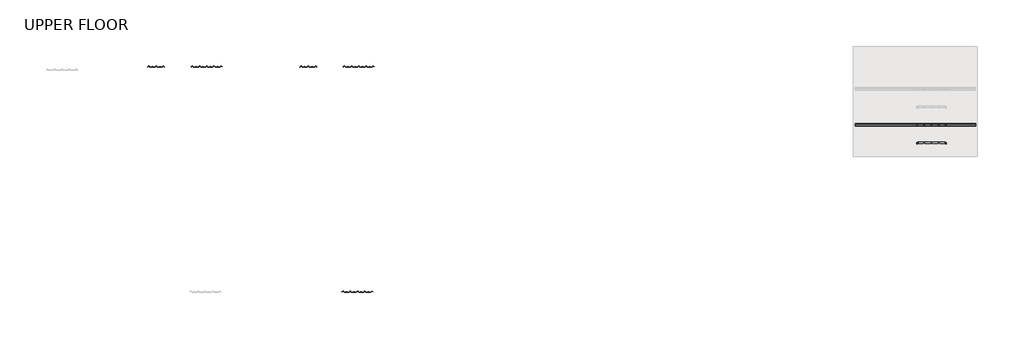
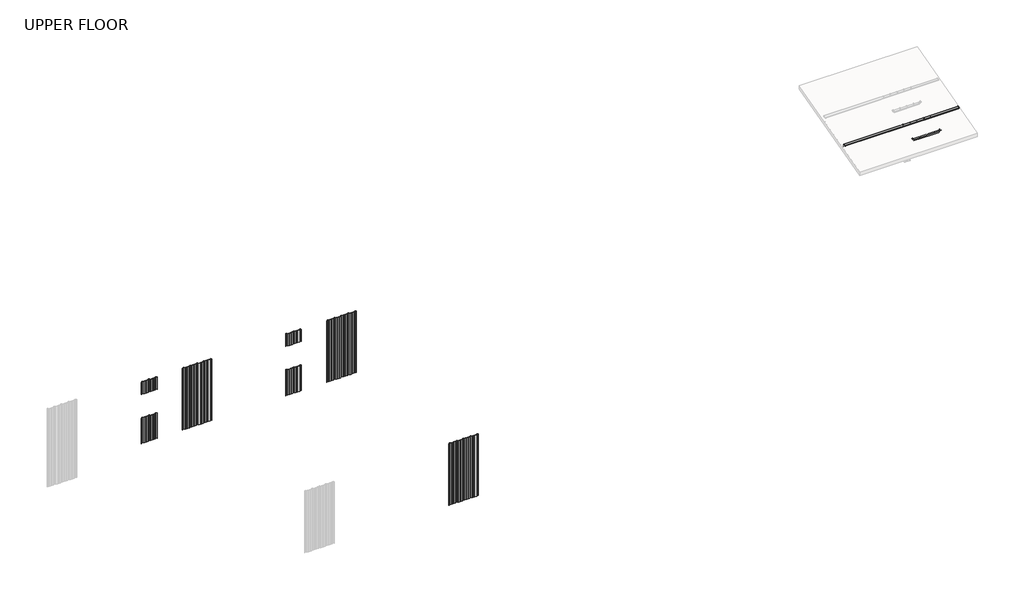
# One storey, part 7 of 8: 9 beams.
"""IFC4 building model written with IfcOpenShell, lengths in millimetres."""

from ifc_helpers import new_model, si_unit, point, frame, frame_2d, origin, place, context, project, spatial, polyline, circle_curve, trimmed, segment, composite_curve, outline, extrude, transform, mapped, element, save
from components import beam_c81321a4, beam_2c57848d, purlin_purlin_01fb94b4

model = new_model("IFC4")

# Units and contexts
model_context = context("Model", 3, world=origin())
ifc_project = project(units=[si_unit("LENGTHUNIT", "METRE", prefix="MILLI")], contexts=[model_context])

# Site, building, storey
site = spatial("IfcSite", under=ifc_project)
building = spatial("IfcBuilding", under=site)
storey = spatial("IfcBuildingStorey", under=building, Name="UPPER FLOOR", Elevation=2700.0)

# Beams
placement = place(None, origin())
element("IfcBeam", 1, ObjectType="3D_Metalcraft T-Rib3 : 3D_Metalcraft T-Rib 2", at=placement, inside=storey, context=model_context, shape_type="SweptSolid", body=[
    extrude(outline(composite_curve([segment(polyline([(17021.0345819, -20646.3351743), (17016.9184317, -20644.6125568), (16979.6262095, -20644.6125568), (16975.5100592, -20646.3351743), (16933.2723206, -20646.3351743)]), True, "CONTINUOUS"), segment(trimmed(circle_curve(frame_2d((16934.0526418, -20641.9964627)), 4.4083239), [point((16933.2723206, -20646.3351743))], [point((16930.4513348, -20644.5388843))], False, "CARTESIAN"), True, "CONTINUOUS"), segment(polyline([(16930.4513348, -20644.5388843), (16914.9449949, -20621.1395635)]), True, "CONTINUOUS"), segment(trimmed(circle_curve(frame_2d((16912.3793951, -20622.9310511)), 3.1291741), [point((16914.9449949, -20621.1395635))], [point((16913.3695175, -20619.9626529))], True, "CARTESIAN"), True, "CONTINUOUS"), segment(trimmed(circle_curve(frame_2d((16903.2782355, -20650.434714)), 32.0995402), [point((16913.3695175, -20619.9626529))], [point((16903.2723206, -20618.3351743))], True, "CARTESIAN"), True, "CONTINUOUS"), segment(trimmed(circle_curve(frame_2d((16903.2664057, -20650.434714)), 32.0995402), [point((16903.2723206, -20618.3351743))], [point((16893.1751237, -20619.9626529))], True, "CARTESIAN"), True, "CONTINUOUS"), segment(trimmed(circle_curve(frame_2d((16894.1652461, -20622.9310511)), 3.1291741), [point((16893.1751237, -20619.9626529))], [point((16891.5996463, -20621.1395635))], True, "CARTESIAN"), True, "CONTINUOUS"), segment(polyline([(16891.5996463, -20621.1395635), (16876.0933064, -20644.5388843)]), True, "CONTINUOUS"), segment(trimmed(circle_curve(frame_2d((16872.4919994, -20641.9964627)), 4.4083239), [point((16876.0933064, -20644.5388843))], [point((16873.2723206, -20646.3351743))], False, "CARTESIAN"), True, "CONTINUOUS"), segment(polyline([(16873.2723206, -20646.3351743), (16831.0345819, -20646.3351743), (16826.9184317, -20644.6125568), (16789.6262095, -20644.6125568), (16785.5100592, -20646.3351743), (16743.2723206, -20646.3351743)]), True, "CONTINUOUS"), segment(trimmed(circle_curve(frame_2d((16744.0526418, -20641.9964627)), 4.4083239), [point((16743.2723206, -20646.3351743))], [point((16740.4513348, -20644.5388843))], False, "CARTESIAN"), True, "CONTINUOUS"), segment(polyline([(16740.4513348, -20644.5388843), (16724.9449949, -20621.1395635)]), True, "CONTINUOUS"), segment(trimmed(circle_curve(frame_2d((16722.3793951, -20622.9310511)), 3.1291741), [point((16724.9449949, -20621.1395635))], [point((16723.3695175, -20619.9626529))], True, "CARTESIAN"), True, "CONTINUOUS"), segment(trimmed(circle_curve(frame_2d((16713.2782355, -20650.434714)), 32.0995402), [point((16723.3695175, -20619.9626529))], [point((16713.2723206, -20618.3351743))], True, "CARTESIAN"), True, "CONTINUOUS"), segment(trimmed(circle_curve(frame_2d((16713.2664057, -20650.434714)), 32.0995402), [point((16713.2723206, -20618.3351743))], [point((16703.1751237, -20619.9626529))], True, "CARTESIAN"), True, "CONTINUOUS"), segment(trimmed(circle_curve(frame_2d((16704.1652461, -20622.9310511)), 3.1291741), [point((16703.1751237, -20619.9626529))], [point((16701.5996463, -20621.1395635))], True, "CARTESIAN"), True, "CONTINUOUS"), segment(polyline([(16701.5996463, -20621.1395635), (16686.0933064, -20644.5388843)]), True, "CONTINUOUS"), segment(trimmed(circle_curve(frame_2d((16682.4919994, -20641.9964627)), 4.4083239), [point((16686.0933064, -20644.5388843))], [point((16683.2723206, -20646.3351743))], False, "CARTESIAN"), True, "CONTINUOUS"), segment(polyline([(16683.2723206, -20646.3351743), (16677.9690255, -20646.3351743), (16677.9690255, -20645.3351743), (16683.1773289, -20645.3351743)]), True, "CONTINUOUS"), segment(trimmed(circle_curve(frame_2d((16682.4919994, -20641.9964627)), 3.4083239), [point((16683.1773289, -20645.3351743))], [point((16685.3946298, -20643.7829141))], True, "CARTESIAN"), True, "CONTINUOUS"), segment(polyline([(16685.3946298, -20643.7829141), (16700.7723206, -20620.5777269)]), True, "CONTINUOUS"), segment(trimmed(circle_curve(frame_2d((16704.1652461, -20622.9310511)), 4.1291741), [point((16700.7723206, -20620.5777269))], [point((16702.8597906, -20619.0136713))], False, "CARTESIAN"), True, "CONTINUOUS"), segment(trimmed(circle_curve(frame_2d((16713.2664057, -20650.434714)), 33.0995402), [point((16702.8597906, -20619.0136713))], [point((16713.2723206, -20617.3351743))], False, "CARTESIAN"), True, "CONTINUOUS"), segment(trimmed(circle_curve(frame_2d((16713.2782355, -20650.434714)), 33.0995402), [point((16713.2723206, -20617.3351743))], [point((16723.6848506, -20619.0136713))], False, "CARTESIAN"), True, "CONTINUOUS"), segment(trimmed(circle_curve(frame_2d((16722.3793951, -20622.9310511)), 4.1291741), [point((16723.6848506, -20619.0136713))], [point((16725.7723206, -20620.5777269))], False, "CARTESIAN"), True, "CONTINUOUS"), segment(polyline([(16725.7723206, -20620.5777269), (16741.1500114, -20643.7829141)]), True, "CONTINUOUS"), segment(trimmed(circle_curve(frame_2d((16744.0526418, -20641.9964627)), 3.4083239), [point((16741.1500114, -20643.7829141))], [point((16743.3673122, -20645.3351743))], True, "CARTESIAN"), True, "CONTINUOUS"), segment(polyline([(16743.3673122, -20645.3351743), (16785.3092464, -20645.3351743), (16789.4253966, -20643.6125568), (16827.1192445, -20643.6125568), (16831.2353948, -20645.3351743), (16873.1773289, -20645.3351743)]), True, "CONTINUOUS"), segment(trimmed(circle_curve(frame_2d((16872.4919994, -20641.9964627)), 3.4083239), [point((16873.1773289, -20645.3351743))], [point((16875.3946298, -20643.7829141))], True, "CARTESIAN"), True, "CONTINUOUS"), segment(polyline([(16875.3946298, -20643.7829141), (16890.7723206, -20620.5777269)]), True, "CONTINUOUS"), segment(trimmed(circle_curve(frame_2d((16894.1652461, -20622.9310511)), 4.1291741), [point((16890.7723206, -20620.5777269))], [point((16892.8597906, -20619.0136713))], False, "CARTESIAN"), True, "CONTINUOUS"), segment(trimmed(circle_curve(frame_2d((16903.2664057, -20650.434714)), 33.0995402), [point((16892.8597906, -20619.0136713))], [point((16903.2723206, -20617.3351743))], False, "CARTESIAN"), True, "CONTINUOUS"), segment(trimmed(circle_curve(frame_2d((16903.2782355, -20650.434714)), 33.0995402), [point((16903.2723206, -20617.3351743))], [point((16913.6848506, -20619.0136713))], False, "CARTESIAN"), True, "CONTINUOUS"), segment(trimmed(circle_curve(frame_2d((16912.3793951, -20622.9310511)), 4.1291741), [point((16913.6848506, -20619.0136713))], [point((16915.7723206, -20620.5777269))], False, "CARTESIAN"), True, "CONTINUOUS"), segment(polyline([(16915.7723206, -20620.5777269), (16931.1500114, -20643.7829141)]), True, "CONTINUOUS"), segment(trimmed(circle_curve(frame_2d((16934.0526418, -20641.9964627)), 3.4083239), [point((16931.1500114, -20643.7829141))], [point((16933.3673122, -20645.3351743))], True, "CARTESIAN"), True, "CONTINUOUS"), segment(polyline([(16933.3673122, -20645.3351743), (16975.3092464, -20645.3351743), (16979.4253966, -20643.6125568), (17017.1192445, -20643.6125568), (17021.2353948, -20645.3351743), (17065.5766198, -20645.3351743)]), True, "CONTINUOUS"), segment(trimmed(circle_curve(frame_2d((17064.8912903, -20641.9964627)), 3.4083239), [point((17065.5766198, -20645.3351743))], [point((17067.6676846, -20643.9734064))], True, "CARTESIAN"), True, "CONTINUOUS"), segment(polyline([(17067.6676846, -20643.9734064), (17082.4332259, -20621.6919629)]), True, "CONTINUOUS"), segment(trimmed(circle_curve(frame_2d((17084.0314995, -20622.7511121)), 1.9173616), [point((17082.4332259, -20621.6919629))], [point((17083.4894983, -20620.9119519))], False, "CARTESIAN"), True, "CONTINUOUS"), segment(trimmed(circle_curve(frame_2d((17093.2664057, -20650.434714)), 31.0995402), [point((17083.4894983, -20620.9119519))], [point((17093.2723206, -20619.3351744))], False, "CARTESIAN"), True, "CONTINUOUS"), segment(trimmed(circle_curve(frame_2d((17093.2782355, -20650.434714)), 31.0995402), [point((17093.2723206, -20619.3351744))], [point((17103.0551428, -20620.9119519))], False, "CARTESIAN"), True, "CONTINUOUS"), segment(trimmed(circle_curve(frame_2d((17102.5131417, -20622.7511121)), 1.9173616), [point((17103.0551428, -20620.9119519))], [point((17104.1114153, -20621.6919629))], False, "CARTESIAN"), True, "CONTINUOUS"), segment(polyline([(17104.1114153, -20621.6919629), (17118.4569245, -20643.3395711)]), True, "CONTINUOUS"), segment(trimmed(circle_curve(frame_2d((17118.0401347, -20643.6157708)), 0.5), [point((17118.4569245, -20643.3395711))], [point((17117.6233449, -20643.8919705))], False, "CARTESIAN"), True, "CONTINUOUS"), segment(polyline([(17117.6233449, -20643.8919705), (17103.4457779, -20622.4977898)]), True, "CONTINUOUS"), segment(trimmed(circle_curve(frame_2d((17101.933733, -20623.4997968)), 1.8139178), [point((17103.4457779, -20622.4977898))], [point((17102.3438376, -20621.7328468))], True, "CARTESIAN"), True, "CONTINUOUS"), segment(trimmed(circle_curve(frame_2d((17093.2782355, -20650.434714)), 30.0995402), [point((17102.3438376, -20621.7328468))], [point((17093.2723206, -20620.3351744))], True, "CARTESIAN"), True, "CONTINUOUS"), segment(trimmed(circle_curve(frame_2d((17093.2664057, -20650.434714)), 30.0995402), [point((17093.2723206, -20620.3351744))], [point((17084.2008036, -20621.7328468))], True, "CARTESIAN"), True, "CONTINUOUS"), segment(trimmed(circle_curve(frame_2d((17084.6109082, -20623.4997968)), 1.8139178), [point((17084.2008036, -20621.7328468))], [point((17083.0988633, -20622.4977898))], True, "CARTESIAN"), True, "CONTINUOUS"), segment(polyline([(17083.0988633, -20622.4977898), (17068.4925973, -20644.5388843)]), True, "CONTINUOUS"), segment(trimmed(circle_curve(frame_2d((17064.8912903, -20641.9964627)), 4.4083239), [point((17068.4925973, -20644.5388843))], [point((17065.6716115, -20646.3351743))], False, "CARTESIAN"), True, "CONTINUOUS"), segment(polyline([(17065.6716115, -20646.3351743), (17021.0345819, -20646.3351743)]), True, "CONTINUOUS")], self_intersect=False)), frame((0.0, 0.0, -1746.662203), z_axis=(0.0, 0.0, 1.0), x_axis=(1.0, 0.0, 0.0)), (0.0, 0.0, 1.0), 745.4000143),
    extrude(outline(composite_curve([segment(polyline([(17021.0345819, -20646.3351743), (17016.9184317, -20644.6125568), (16979.6262095, -20644.6125568), (16975.5100592, -20646.3351743), (16933.2723206, -20646.3351743)]), True, "CONTINUOUS"), segment(trimmed(circle_curve(frame_2d((16934.0526418, -20641.9964627)), 4.4083239), [point((16933.2723206, -20646.3351743))], [point((16930.4513348, -20644.5388843))], False, "CARTESIAN"), True, "CONTINUOUS"), segment(polyline([(16930.4513348, -20644.5388843), (16914.9449949, -20621.1395635)]), True, "CONTINUOUS"), segment(trimmed(circle_curve(frame_2d((16912.3793951, -20622.9310511)), 3.1291741), [point((16914.9449949, -20621.1395635))], [point((16913.3695175, -20619.9626529))], True, "CARTESIAN"), True, "CONTINUOUS"), segment(trimmed(circle_curve(frame_2d((16903.2782355, -20650.434714)), 32.0995402), [point((16913.3695175, -20619.9626529))], [point((16903.2723206, -20618.3351743))], True, "CARTESIAN"), True, "CONTINUOUS"), segment(trimmed(circle_curve(frame_2d((16903.2664057, -20650.434714)), 32.0995402), [point((16903.2723206, -20618.3351743))], [point((16893.1751237, -20619.9626529))], True, "CARTESIAN"), True, "CONTINUOUS"), segment(trimmed(circle_curve(frame_2d((16894.1652461, -20622.9310511)), 3.1291741), [point((16893.1751237, -20619.9626529))], [point((16891.5996463, -20621.1395635))], True, "CARTESIAN"), True, "CONTINUOUS"), segment(polyline([(16891.5996463, -20621.1395635), (16876.0933064, -20644.5388843)]), True, "CONTINUOUS"), segment(trimmed(circle_curve(frame_2d((16872.4919994, -20641.9964627)), 4.4083239), [point((16876.0933064, -20644.5388843))], [point((16873.2723206, -20646.3351743))], False, "CARTESIAN"), True, "CONTINUOUS"), segment(polyline([(16873.2723206, -20646.3351743), (16831.0345819, -20646.3351743), (16826.9184317, -20644.6125568), (16789.6262095, -20644.6125568), (16785.5100592, -20646.3351743), (16743.2723206, -20646.3351743)]), True, "CONTINUOUS"), segment(trimmed(circle_curve(frame_2d((16744.0526418, -20641.9964627)), 4.4083239), [point((16743.2723206, -20646.3351743))], [point((16740.4513348, -20644.5388843))], False, "CARTESIAN"), True, "CONTINUOUS"), segment(polyline([(16740.4513348, -20644.5388843), (16724.9449949, -20621.1395635)]), True, "CONTINUOUS"), segment(trimmed(circle_curve(frame_2d((16722.3793951, -20622.9310511)), 3.1291741), [point((16724.9449949, -20621.1395635))], [point((16723.3695175, -20619.9626529))], True, "CARTESIAN"), True, "CONTINUOUS"), segment(trimmed(circle_curve(frame_2d((16713.2782355, -20650.434714)), 32.0995402), [point((16723.3695175, -20619.9626529))], [point((16713.2723206, -20618.3351743))], True, "CARTESIAN"), True, "CONTINUOUS"), segment(trimmed(circle_curve(frame_2d((16713.2664057, -20650.434714)), 32.0995402), [point((16713.2723206, -20618.3351743))], [point((16703.1751237, -20619.9626529))], True, "CARTESIAN"), True, "CONTINUOUS"), segment(trimmed(circle_curve(frame_2d((16704.1652461, -20622.9310511)), 3.1291741), [point((16703.1751237, -20619.9626529))], [point((16701.5996463, -20621.1395635))], True, "CARTESIAN"), True, "CONTINUOUS"), segment(polyline([(16701.5996463, -20621.1395635), (16686.0933064, -20644.5388843)]), True, "CONTINUOUS"), segment(trimmed(circle_curve(frame_2d((16682.4919994, -20641.9964627)), 4.4083239), [point((16686.0933064, -20644.5388843))], [point((16683.2723206, -20646.3351743))], False, "CARTESIAN"), True, "CONTINUOUS"), segment(polyline([(16683.2723206, -20646.3351743), (16677.9690255, -20646.3351743), (16677.9690255, -20645.3351743), (16683.1773289, -20645.3351743)]), True, "CONTINUOUS"), segment(trimmed(circle_curve(frame_2d((16682.4919994, -20641.9964627)), 3.4083239), [point((16683.1773289, -20645.3351743))], [point((16685.3946298, -20643.7829141))], True, "CARTESIAN"), True, "CONTINUOUS"), segment(polyline([(16685.3946298, -20643.7829141), (16700.7723206, -20620.5777269)]), True, "CONTINUOUS"), segment(trimmed(circle_curve(frame_2d((16704.1652461, -20622.9310511)), 4.1291741), [point((16700.7723206, -20620.5777269))], [point((16702.8597906, -20619.0136713))], False, "CARTESIAN"), True, "CONTINUOUS"), segment(trimmed(circle_curve(frame_2d((16713.2664057, -20650.434714)), 33.0995402), [point((16702.8597906, -20619.0136713))], [point((16713.2723206, -20617.3351743))], False, "CARTESIAN"), True, "CONTINUOUS"), segment(trimmed(circle_curve(frame_2d((16713.2782355, -20650.434714)), 33.0995402), [point((16713.2723206, -20617.3351743))], [point((16723.6848506, -20619.0136713))], False, "CARTESIAN"), True, "CONTINUOUS"), segment(trimmed(circle_curve(frame_2d((16722.3793951, -20622.9310511)), 4.1291741), [point((16723.6848506, -20619.0136713))], [point((16725.7723206, -20620.5777269))], False, "CARTESIAN"), True, "CONTINUOUS"), segment(polyline([(16725.7723206, -20620.5777269), (16741.1500114, -20643.7829141)]), True, "CONTINUOUS"), segment(trimmed(circle_curve(frame_2d((16744.0526418, -20641.9964627)), 3.4083239), [point((16741.1500114, -20643.7829141))], [point((16743.3673122, -20645.3351743))], True, "CARTESIAN"), True, "CONTINUOUS"), segment(polyline([(16743.3673122, -20645.3351743), (16785.3092464, -20645.3351743), (16789.4253966, -20643.6125568), (16827.1192445, -20643.6125568), (16831.2353948, -20645.3351743), (16873.1773289, -20645.3351743)]), True, "CONTINUOUS"), segment(trimmed(circle_curve(frame_2d((16872.4919994, -20641.9964627)), 3.4083239), [point((16873.1773289, -20645.3351743))], [point((16875.3946298, -20643.7829141))], True, "CARTESIAN"), True, "CONTINUOUS"), segment(polyline([(16875.3946298, -20643.7829141), (16890.7723206, -20620.5777269)]), True, "CONTINUOUS"), segment(trimmed(circle_curve(frame_2d((16894.1652461, -20622.9310511)), 4.1291741), [point((16890.7723206, -20620.5777269))], [point((16892.8597906, -20619.0136713))], False, "CARTESIAN"), True, "CONTINUOUS"), segment(trimmed(circle_curve(frame_2d((16903.2664057, -20650.434714)), 33.0995402), [point((16892.8597906, -20619.0136713))], [point((16903.2723206, -20617.3351743))], False, "CARTESIAN"), True, "CONTINUOUS"), segment(trimmed(circle_curve(frame_2d((16903.2782355, -20650.434714)), 33.0995402), [point((16903.2723206, -20617.3351743))], [point((16913.6848506, -20619.0136713))], False, "CARTESIAN"), True, "CONTINUOUS"), segment(trimmed(circle_curve(frame_2d((16912.3793951, -20622.9310511)), 4.1291741), [point((16913.6848506, -20619.0136713))], [point((16915.7723206, -20620.5777269))], False, "CARTESIAN"), True, "CONTINUOUS"), segment(polyline([(16915.7723206, -20620.5777269), (16931.1500114, -20643.7829141)]), True, "CONTINUOUS"), segment(trimmed(circle_curve(frame_2d((16934.0526418, -20641.9964627)), 3.4083239), [point((16931.1500114, -20643.7829141))], [point((16933.3673122, -20645.3351743))], True, "CARTESIAN"), True, "CONTINUOUS"), segment(polyline([(16933.3673122, -20645.3351743), (16975.3092464, -20645.3351743), (16979.4253966, -20643.6125568), (17017.1192445, -20643.6125568), (17021.2353948, -20645.3351743), (17065.5766198, -20645.3351743)]), True, "CONTINUOUS"), segment(trimmed(circle_curve(frame_2d((17064.8912903, -20641.9964627)), 3.4083239), [point((17065.5766198, -20645.3351743))], [point((17067.6676846, -20643.9734064))], True, "CARTESIAN"), True, "CONTINUOUS"), segment(polyline([(17067.6676846, -20643.9734064), (17082.4332259, -20621.6919629)]), True, "CONTINUOUS"), segment(trimmed(circle_curve(frame_2d((17084.0314995, -20622.7511121)), 1.9173616), [point((17082.4332259, -20621.6919629))], [point((17083.4894983, -20620.9119519))], False, "CARTESIAN"), True, "CONTINUOUS"), segment(trimmed(circle_curve(frame_2d((17093.2664057, -20650.434714)), 31.0995402), [point((17083.4894983, -20620.9119519))], [point((17093.2723206, -20619.3351744))], False, "CARTESIAN"), True, "CONTINUOUS"), segment(trimmed(circle_curve(frame_2d((17093.2782355, -20650.434714)), 31.0995402), [point((17093.2723206, -20619.3351744))], [point((17103.0551428, -20620.9119519))], False, "CARTESIAN"), True, "CONTINUOUS"), segment(trimmed(circle_curve(frame_2d((17102.5131417, -20622.7511121)), 1.9173616), [point((17103.0551428, -20620.9119519))], [point((17104.1114153, -20621.6919629))], False, "CARTESIAN"), True, "CONTINUOUS"), segment(polyline([(17104.1114153, -20621.6919629), (17118.4569245, -20643.3395711)]), True, "CONTINUOUS"), segment(trimmed(circle_curve(frame_2d((17118.0401347, -20643.6157708)), 0.5), [point((17118.4569245, -20643.3395711))], [point((17117.6233449, -20643.8919705))], False, "CARTESIAN"), True, "CONTINUOUS"), segment(polyline([(17117.6233449, -20643.8919705), (17103.4457779, -20622.4977898)]), True, "CONTINUOUS"), segment(trimmed(circle_curve(frame_2d((17101.933733, -20623.4997968)), 1.8139178), [point((17103.4457779, -20622.4977898))], [point((17102.3438376, -20621.7328468))], True, "CARTESIAN"), True, "CONTINUOUS"), segment(trimmed(circle_curve(frame_2d((17093.2782355, -20650.434714)), 30.0995402), [point((17102.3438376, -20621.7328468))], [point((17093.2723206, -20620.3351744))], True, "CARTESIAN"), True, "CONTINUOUS"), segment(trimmed(circle_curve(frame_2d((17093.2664057, -20650.434714)), 30.0995402), [point((17093.2723206, -20620.3351744))], [point((17084.2008036, -20621.7328468))], True, "CARTESIAN"), True, "CONTINUOUS"), segment(trimmed(circle_curve(frame_2d((17084.6109082, -20623.4997968)), 1.8139178), [point((17084.2008036, -20621.7328468))], [point((17083.0988633, -20622.4977898))], True, "CARTESIAN"), True, "CONTINUOUS"), segment(polyline([(17083.0988633, -20622.4977898), (17068.4925973, -20644.5388843)]), True, "CONTINUOUS"), segment(trimmed(circle_curve(frame_2d((17064.8912903, -20641.9964627)), 4.4083239), [point((17068.4925973, -20644.5388843))], [point((17065.6716115, -20646.3351743))], False, "CARTESIAN"), True, "CONTINUOUS"), segment(polyline([(17065.6716115, -20646.3351743), (17021.0345819, -20646.3351743)]), True, "CONTINUOUS")], self_intersect=False)), frame((0.0, 0.0, -301.2621887), z_axis=(0.0, 0.0, 1.0), x_axis=(1.0, 0.0, 0.0)), (0.0, 0.0, 1.0), 354.5999857),
])
element("IfcBeam", 2, ObjectType="3D_Metalcraft T-Rib3 : 3D_Metalcraft T-Rib 2", at=placement, inside=storey, context=model_context, shape_type="SweptSolid", body=[
    extrude(outline(composite_curve([segment(polyline([(13019.7845819, -20646.3351743), (13015.6684317, -20644.6125568), (12978.3762095, -20644.6125568), (12974.2600592, -20646.3351743), (12932.0223206, -20646.3351743)]), True, "CONTINUOUS"), segment(trimmed(circle_curve(frame_2d((12932.8026418, -20641.9964627)), 4.4083239), [point((12932.0223206, -20646.3351743))], [point((12929.2013348, -20644.5388843))], False, "CARTESIAN"), True, "CONTINUOUS"), segment(polyline([(12929.2013348, -20644.5388843), (12913.6949949, -20621.1395635)]), True, "CONTINUOUS"), segment(trimmed(circle_curve(frame_2d((12911.1293951, -20622.9310511)), 3.1291741), [point((12913.6949949, -20621.1395635))], [point((12912.1195175, -20619.9626529))], True, "CARTESIAN"), True, "CONTINUOUS"), segment(trimmed(circle_curve(frame_2d((12902.0282355, -20650.434714)), 32.0995402), [point((12912.1195175, -20619.9626529))], [point((12902.0223206, -20618.3351743))], True, "CARTESIAN"), True, "CONTINUOUS"), segment(trimmed(circle_curve(frame_2d((12902.0164057, -20650.434714)), 32.0995402), [point((12902.0223206, -20618.3351743))], [point((12891.9251237, -20619.9626529))], True, "CARTESIAN"), True, "CONTINUOUS"), segment(trimmed(circle_curve(frame_2d((12892.9152461, -20622.9310511)), 3.1291741), [point((12891.9251237, -20619.9626529))], [point((12890.3496463, -20621.1395635))], True, "CARTESIAN"), True, "CONTINUOUS"), segment(polyline([(12890.3496463, -20621.1395635), (12874.8433064, -20644.5388843)]), True, "CONTINUOUS"), segment(trimmed(circle_curve(frame_2d((12871.2419994, -20641.9964627)), 4.4083239), [point((12874.8433064, -20644.5388843))], [point((12872.0223206, -20646.3351743))], False, "CARTESIAN"), True, "CONTINUOUS"), segment(polyline([(12872.0223206, -20646.3351743), (12829.7845819, -20646.3351743), (12825.6684317, -20644.6125568), (12788.3762095, -20644.6125568), (12784.2600592, -20646.3351743), (12742.0223206, -20646.3351743)]), True, "CONTINUOUS"), segment(trimmed(circle_curve(frame_2d((12742.8026418, -20641.9964627)), 4.4083239), [point((12742.0223206, -20646.3351743))], [point((12739.2013348, -20644.5388843))], False, "CARTESIAN"), True, "CONTINUOUS"), segment(polyline([(12739.2013348, -20644.5388843), (12723.6949949, -20621.1395635)]), True, "CONTINUOUS"), segment(trimmed(circle_curve(frame_2d((12721.1293951, -20622.9310511)), 3.1291741), [point((12723.6949949, -20621.1395635))], [point((12722.1195175, -20619.9626529))], True, "CARTESIAN"), True, "CONTINUOUS"), segment(trimmed(circle_curve(frame_2d((12712.0282355, -20650.434714)), 32.0995402), [point((12722.1195175, -20619.9626529))], [point((12712.0223206, -20618.3351743))], True, "CARTESIAN"), True, "CONTINUOUS"), segment(trimmed(circle_curve(frame_2d((12712.0164057, -20650.434714)), 32.0995402), [point((12712.0223206, -20618.3351743))], [point((12701.9251237, -20619.9626529))], True, "CARTESIAN"), True, "CONTINUOUS"), segment(trimmed(circle_curve(frame_2d((12702.9152461, -20622.9310511)), 3.1291741), [point((12701.9251237, -20619.9626529))], [point((12700.3496463, -20621.1395635))], True, "CARTESIAN"), True, "CONTINUOUS"), segment(polyline([(12700.3496463, -20621.1395635), (12684.8433064, -20644.5388843)]), True, "CONTINUOUS"), segment(trimmed(circle_curve(frame_2d((12681.2419994, -20641.9964627)), 4.4083239), [point((12684.8433064, -20644.5388843))], [point((12682.0223206, -20646.3351743))], False, "CARTESIAN"), True, "CONTINUOUS"), segment(polyline([(12682.0223206, -20646.3351743), (12677.9590029, -20646.3351743), (12677.9590029, -20645.3351743), (12681.9273289, -20645.3351743)]), True, "CONTINUOUS"), segment(trimmed(circle_curve(frame_2d((12681.2419994, -20641.9964627)), 3.4083239), [point((12681.9273289, -20645.3351743))], [point((12684.1446298, -20643.7829141))], True, "CARTESIAN"), True, "CONTINUOUS"), segment(polyline([(12684.1446298, -20643.7829141), (12699.5223206, -20620.5777269)]), True, "CONTINUOUS"), segment(trimmed(circle_curve(frame_2d((12702.9152461, -20622.9310511)), 4.1291741), [point((12699.5223206, -20620.5777269))], [point((12701.6097906, -20619.0136713))], False, "CARTESIAN"), True, "CONTINUOUS"), segment(trimmed(circle_curve(frame_2d((12712.0164057, -20650.434714)), 33.0995402), [point((12701.6097906, -20619.0136713))], [point((12712.0223206, -20617.3351743))], False, "CARTESIAN"), True, "CONTINUOUS"), segment(trimmed(circle_curve(frame_2d((12712.0282355, -20650.434714)), 33.0995402), [point((12712.0223206, -20617.3351743))], [point((12722.4348506, -20619.0136713))], False, "CARTESIAN"), True, "CONTINUOUS"), segment(trimmed(circle_curve(frame_2d((12721.1293951, -20622.9310511)), 4.1291741), [point((12722.4348506, -20619.0136713))], [point((12724.5223206, -20620.5777269))], False, "CARTESIAN"), True, "CONTINUOUS"), segment(polyline([(12724.5223206, -20620.5777269), (12739.9000114, -20643.7829141)]), True, "CONTINUOUS"), segment(trimmed(circle_curve(frame_2d((12742.8026418, -20641.9964627)), 3.4083239), [point((12739.9000114, -20643.7829141))], [point((12742.1173122, -20645.3351743))], True, "CARTESIAN"), True, "CONTINUOUS"), segment(polyline([(12742.1173122, -20645.3351743), (12784.0592464, -20645.3351743), (12788.1753966, -20643.6125568), (12825.8692445, -20643.6125568), (12829.9853948, -20645.3351743), (12871.9273289, -20645.3351743)]), True, "CONTINUOUS"), segment(trimmed(circle_curve(frame_2d((12871.2419994, -20641.9964627)), 3.4083239), [point((12871.9273289, -20645.3351743))], [point((12874.1446298, -20643.7829141))], True, "CARTESIAN"), True, "CONTINUOUS"), segment(polyline([(12874.1446298, -20643.7829141), (12889.5223206, -20620.5777269)]), True, "CONTINUOUS"), segment(trimmed(circle_curve(frame_2d((12892.9152461, -20622.9310511)), 4.1291741), [point((12889.5223206, -20620.5777269))], [point((12891.6097906, -20619.0136713))], False, "CARTESIAN"), True, "CONTINUOUS"), segment(trimmed(circle_curve(frame_2d((12902.0164057, -20650.434714)), 33.0995402), [point((12891.6097906, -20619.0136713))], [point((12902.0223206, -20617.3351743))], False, "CARTESIAN"), True, "CONTINUOUS"), segment(trimmed(circle_curve(frame_2d((12902.0282355, -20650.434714)), 33.0995402), [point((12902.0223206, -20617.3351743))], [point((12912.4348506, -20619.0136713))], False, "CARTESIAN"), True, "CONTINUOUS"), segment(trimmed(circle_curve(frame_2d((12911.1293951, -20622.9310511)), 4.1291741), [point((12912.4348506, -20619.0136713))], [point((12914.5223206, -20620.5777269))], False, "CARTESIAN"), True, "CONTINUOUS"), segment(polyline([(12914.5223206, -20620.5777269), (12929.9000114, -20643.7829141)]), True, "CONTINUOUS"), segment(trimmed(circle_curve(frame_2d((12932.8026418, -20641.9964627)), 3.4083239), [point((12929.9000114, -20643.7829141))], [point((12932.1173122, -20645.3351743))], True, "CARTESIAN"), True, "CONTINUOUS"), segment(polyline([(12932.1173122, -20645.3351743), (12974.0592464, -20645.3351743), (12978.1753966, -20643.6125568), (13015.8692445, -20643.6125568), (13019.9853948, -20645.3351743), (13064.3266198, -20645.3351743)]), True, "CONTINUOUS"), segment(trimmed(circle_curve(frame_2d((13063.6412903, -20641.9964627)), 3.4083239), [point((13064.3266198, -20645.3351743))], [point((13066.4176846, -20643.9734064))], True, "CARTESIAN"), True, "CONTINUOUS"), segment(polyline([(13066.4176846, -20643.9734064), (13081.1832259, -20621.6919629)]), True, "CONTINUOUS"), segment(trimmed(circle_curve(frame_2d((13082.7814995, -20622.7511121)), 1.9173616), [point((13081.1832259, -20621.6919629))], [point((13082.2394983, -20620.9119519))], False, "CARTESIAN"), True, "CONTINUOUS"), segment(trimmed(circle_curve(frame_2d((13092.0164057, -20650.434714)), 31.0995402), [point((13082.2394983, -20620.9119519))], [point((13092.0223206, -20619.3351744))], False, "CARTESIAN"), True, "CONTINUOUS"), segment(trimmed(circle_curve(frame_2d((13092.0282355, -20650.434714)), 31.0995402), [point((13092.0223206, -20619.3351744))], [point((13101.8051428, -20620.9119519))], False, "CARTESIAN"), True, "CONTINUOUS"), segment(trimmed(circle_curve(frame_2d((13101.2631417, -20622.7511121)), 1.9173616), [point((13101.8051428, -20620.9119519))], [point((13102.8614153, -20621.6919629))], False, "CARTESIAN"), True, "CONTINUOUS"), segment(polyline([(13102.8614153, -20621.6919629), (13117.2069245, -20643.3395711)]), True, "CONTINUOUS"), segment(trimmed(circle_curve(frame_2d((13116.7901347, -20643.6157708)), 0.5), [point((13117.2069245, -20643.3395711))], [point((13116.3733449, -20643.8919705))], False, "CARTESIAN"), True, "CONTINUOUS"), segment(polyline([(13116.3733449, -20643.8919705), (13102.1957779, -20622.4977898)]), True, "CONTINUOUS"), segment(trimmed(circle_curve(frame_2d((13100.683733, -20623.4997968)), 1.8139178), [point((13102.1957779, -20622.4977898))], [point((13101.0938376, -20621.7328468))], True, "CARTESIAN"), True, "CONTINUOUS"), segment(trimmed(circle_curve(frame_2d((13092.0282355, -20650.434714)), 30.0995402), [point((13101.0938376, -20621.7328468))], [point((13092.0223206, -20620.3351744))], True, "CARTESIAN"), True, "CONTINUOUS"), segment(trimmed(circle_curve(frame_2d((13092.0164057, -20650.434714)), 30.0995402), [point((13092.0223206, -20620.3351744))], [point((13082.9508036, -20621.7328468))], True, "CARTESIAN"), True, "CONTINUOUS"), segment(trimmed(circle_curve(frame_2d((13083.3609082, -20623.4997968)), 1.8139178), [point((13082.9508036, -20621.7328468))], [point((13081.8488633, -20622.4977898))], True, "CARTESIAN"), True, "CONTINUOUS"), segment(polyline([(13081.8488633, -20622.4977898), (13067.2425973, -20644.5388843)]), True, "CONTINUOUS"), segment(trimmed(circle_curve(frame_2d((13063.6412903, -20641.9964627)), 4.4083239), [point((13067.2425973, -20644.5388843))], [point((13064.4216115, -20646.3351743))], False, "CARTESIAN"), True, "CONTINUOUS"), segment(polyline([(13064.4216115, -20646.3351743), (13019.7845819, -20646.3351743)]), True, "CONTINUOUS")], self_intersect=False)), frame((0.0, 0.0, -1746.662203), z_axis=(0.0, 0.0, 1.0), x_axis=(1.0, 0.0, 0.0)), (0.0, 0.0, 1.0), 740.4000143),
    extrude(outline(composite_curve([segment(polyline([(13019.7845819, -20646.3351743), (13015.6684317, -20644.6125568), (12978.3762095, -20644.6125568), (12974.2600592, -20646.3351743), (12932.0223206, -20646.3351743)]), True, "CONTINUOUS"), segment(trimmed(circle_curve(frame_2d((12932.8026418, -20641.9964627)), 4.4083239), [point((12932.0223206, -20646.3351743))], [point((12929.2013348, -20644.5388843))], False, "CARTESIAN"), True, "CONTINUOUS"), segment(polyline([(12929.2013348, -20644.5388843), (12913.6949949, -20621.1395635)]), True, "CONTINUOUS"), segment(trimmed(circle_curve(frame_2d((12911.1293951, -20622.9310511)), 3.1291741), [point((12913.6949949, -20621.1395635))], [point((12912.1195175, -20619.9626529))], True, "CARTESIAN"), True, "CONTINUOUS"), segment(trimmed(circle_curve(frame_2d((12902.0282355, -20650.434714)), 32.0995402), [point((12912.1195175, -20619.9626529))], [point((12902.0223206, -20618.3351743))], True, "CARTESIAN"), True, "CONTINUOUS"), segment(trimmed(circle_curve(frame_2d((12902.0164057, -20650.434714)), 32.0995402), [point((12902.0223206, -20618.3351743))], [point((12891.9251237, -20619.9626529))], True, "CARTESIAN"), True, "CONTINUOUS"), segment(trimmed(circle_curve(frame_2d((12892.9152461, -20622.9310511)), 3.1291741), [point((12891.9251237, -20619.9626529))], [point((12890.3496463, -20621.1395635))], True, "CARTESIAN"), True, "CONTINUOUS"), segment(polyline([(12890.3496463, -20621.1395635), (12874.8433064, -20644.5388843)]), True, "CONTINUOUS"), segment(trimmed(circle_curve(frame_2d((12871.2419994, -20641.9964627)), 4.4083239), [point((12874.8433064, -20644.5388843))], [point((12872.0223206, -20646.3351743))], False, "CARTESIAN"), True, "CONTINUOUS"), segment(polyline([(12872.0223206, -20646.3351743), (12829.7845819, -20646.3351743), (12825.6684317, -20644.6125568), (12788.3762095, -20644.6125568), (12784.2600592, -20646.3351743), (12742.0223206, -20646.3351743)]), True, "CONTINUOUS"), segment(trimmed(circle_curve(frame_2d((12742.8026418, -20641.9964627)), 4.4083239), [point((12742.0223206, -20646.3351743))], [point((12739.2013348, -20644.5388843))], False, "CARTESIAN"), True, "CONTINUOUS"), segment(polyline([(12739.2013348, -20644.5388843), (12723.6949949, -20621.1395635)]), True, "CONTINUOUS"), segment(trimmed(circle_curve(frame_2d((12721.1293951, -20622.9310511)), 3.1291741), [point((12723.6949949, -20621.1395635))], [point((12722.1195175, -20619.9626529))], True, "CARTESIAN"), True, "CONTINUOUS"), segment(trimmed(circle_curve(frame_2d((12712.0282355, -20650.434714)), 32.0995402), [point((12722.1195175, -20619.9626529))], [point((12712.0223206, -20618.3351743))], True, "CARTESIAN"), True, "CONTINUOUS"), segment(trimmed(circle_curve(frame_2d((12712.0164057, -20650.434714)), 32.0995402), [point((12712.0223206, -20618.3351743))], [point((12701.9251237, -20619.9626529))], True, "CARTESIAN"), True, "CONTINUOUS"), segment(trimmed(circle_curve(frame_2d((12702.9152461, -20622.9310511)), 3.1291741), [point((12701.9251237, -20619.9626529))], [point((12700.3496463, -20621.1395635))], True, "CARTESIAN"), True, "CONTINUOUS"), segment(polyline([(12700.3496463, -20621.1395635), (12684.8433064, -20644.5388843)]), True, "CONTINUOUS"), segment(trimmed(circle_curve(frame_2d((12681.2419994, -20641.9964627)), 4.4083239), [point((12684.8433064, -20644.5388843))], [point((12682.0223206, -20646.3351743))], False, "CARTESIAN"), True, "CONTINUOUS"), segment(polyline([(12682.0223206, -20646.3351743), (12677.9590029, -20646.3351743), (12677.9590029, -20645.3351743), (12681.9273289, -20645.3351743)]), True, "CONTINUOUS"), segment(trimmed(circle_curve(frame_2d((12681.2419994, -20641.9964627)), 3.4083239), [point((12681.9273289, -20645.3351743))], [point((12684.1446298, -20643.7829141))], True, "CARTESIAN"), True, "CONTINUOUS"), segment(polyline([(12684.1446298, -20643.7829141), (12699.5223206, -20620.5777269)]), True, "CONTINUOUS"), segment(trimmed(circle_curve(frame_2d((12702.9152461, -20622.9310511)), 4.1291741), [point((12699.5223206, -20620.5777269))], [point((12701.6097906, -20619.0136713))], False, "CARTESIAN"), True, "CONTINUOUS"), segment(trimmed(circle_curve(frame_2d((12712.0164057, -20650.434714)), 33.0995402), [point((12701.6097906, -20619.0136713))], [point((12712.0223206, -20617.3351743))], False, "CARTESIAN"), True, "CONTINUOUS"), segment(trimmed(circle_curve(frame_2d((12712.0282355, -20650.434714)), 33.0995402), [point((12712.0223206, -20617.3351743))], [point((12722.4348506, -20619.0136713))], False, "CARTESIAN"), True, "CONTINUOUS"), segment(trimmed(circle_curve(frame_2d((12721.1293951, -20622.9310511)), 4.1291741), [point((12722.4348506, -20619.0136713))], [point((12724.5223206, -20620.5777269))], False, "CARTESIAN"), True, "CONTINUOUS"), segment(polyline([(12724.5223206, -20620.5777269), (12739.9000114, -20643.7829141)]), True, "CONTINUOUS"), segment(trimmed(circle_curve(frame_2d((12742.8026418, -20641.9964627)), 3.4083239), [point((12739.9000114, -20643.7829141))], [point((12742.1173122, -20645.3351743))], True, "CARTESIAN"), True, "CONTINUOUS"), segment(polyline([(12742.1173122, -20645.3351743), (12784.0592464, -20645.3351743), (12788.1753966, -20643.6125568), (12825.8692445, -20643.6125568), (12829.9853948, -20645.3351743), (12871.9273289, -20645.3351743)]), True, "CONTINUOUS"), segment(trimmed(circle_curve(frame_2d((12871.2419994, -20641.9964627)), 3.4083239), [point((12871.9273289, -20645.3351743))], [point((12874.1446298, -20643.7829141))], True, "CARTESIAN"), True, "CONTINUOUS"), segment(polyline([(12874.1446298, -20643.7829141), (12889.5223206, -20620.5777269)]), True, "CONTINUOUS"), segment(trimmed(circle_curve(frame_2d((12892.9152461, -20622.9310511)), 4.1291741), [point((12889.5223206, -20620.5777269))], [point((12891.6097906, -20619.0136713))], False, "CARTESIAN"), True, "CONTINUOUS"), segment(trimmed(circle_curve(frame_2d((12902.0164057, -20650.434714)), 33.0995402), [point((12891.6097906, -20619.0136713))], [point((12902.0223206, -20617.3351743))], False, "CARTESIAN"), True, "CONTINUOUS"), segment(trimmed(circle_curve(frame_2d((12902.0282355, -20650.434714)), 33.0995402), [point((12902.0223206, -20617.3351743))], [point((12912.4348506, -20619.0136713))], False, "CARTESIAN"), True, "CONTINUOUS"), segment(trimmed(circle_curve(frame_2d((12911.1293951, -20622.9310511)), 4.1291741), [point((12912.4348506, -20619.0136713))], [point((12914.5223206, -20620.5777269))], False, "CARTESIAN"), True, "CONTINUOUS"), segment(polyline([(12914.5223206, -20620.5777269), (12929.9000114, -20643.7829141)]), True, "CONTINUOUS"), segment(trimmed(circle_curve(frame_2d((12932.8026418, -20641.9964627)), 3.4083239), [point((12929.9000114, -20643.7829141))], [point((12932.1173122, -20645.3351743))], True, "CARTESIAN"), True, "CONTINUOUS"), segment(polyline([(12932.1173122, -20645.3351743), (12974.0592464, -20645.3351743), (12978.1753966, -20643.6125568), (13015.8692445, -20643.6125568), (13019.9853948, -20645.3351743), (13064.3266198, -20645.3351743)]), True, "CONTINUOUS"), segment(trimmed(circle_curve(frame_2d((13063.6412903, -20641.9964627)), 3.4083239), [point((13064.3266198, -20645.3351743))], [point((13066.4176846, -20643.9734064))], True, "CARTESIAN"), True, "CONTINUOUS"), segment(polyline([(13066.4176846, -20643.9734064), (13081.1832259, -20621.6919629)]), True, "CONTINUOUS"), segment(trimmed(circle_curve(frame_2d((13082.7814995, -20622.7511121)), 1.9173616), [point((13081.1832259, -20621.6919629))], [point((13082.2394983, -20620.9119519))], False, "CARTESIAN"), True, "CONTINUOUS"), segment(trimmed(circle_curve(frame_2d((13092.0164057, -20650.434714)), 31.0995402), [point((13082.2394983, -20620.9119519))], [point((13092.0223206, -20619.3351744))], False, "CARTESIAN"), True, "CONTINUOUS"), segment(trimmed(circle_curve(frame_2d((13092.0282355, -20650.434714)), 31.0995402), [point((13092.0223206, -20619.3351744))], [point((13101.8051428, -20620.9119519))], False, "CARTESIAN"), True, "CONTINUOUS"), segment(trimmed(circle_curve(frame_2d((13101.2631417, -20622.7511121)), 1.9173616), [point((13101.8051428, -20620.9119519))], [point((13102.8614153, -20621.6919629))], False, "CARTESIAN"), True, "CONTINUOUS"), segment(polyline([(13102.8614153, -20621.6919629), (13117.2069245, -20643.3395711)]), True, "CONTINUOUS"), segment(trimmed(circle_curve(frame_2d((13116.7901347, -20643.6157708)), 0.5), [point((13117.2069245, -20643.3395711))], [point((13116.3733449, -20643.8919705))], False, "CARTESIAN"), True, "CONTINUOUS"), segment(polyline([(13116.3733449, -20643.8919705), (13102.1957779, -20622.4977898)]), True, "CONTINUOUS"), segment(trimmed(circle_curve(frame_2d((13100.683733, -20623.4997968)), 1.8139178), [point((13102.1957779, -20622.4977898))], [point((13101.0938376, -20621.7328468))], True, "CARTESIAN"), True, "CONTINUOUS"), segment(trimmed(circle_curve(frame_2d((13092.0282355, -20650.434714)), 30.0995402), [point((13101.0938376, -20621.7328468))], [point((13092.0223206, -20620.3351744))], True, "CARTESIAN"), True, "CONTINUOUS"), segment(trimmed(circle_curve(frame_2d((13092.0164057, -20650.434714)), 30.0995402), [point((13092.0223206, -20620.3351744))], [point((13082.9508036, -20621.7328468))], True, "CARTESIAN"), True, "CONTINUOUS"), segment(trimmed(circle_curve(frame_2d((13083.3609082, -20623.4997968)), 1.8139178), [point((13082.9508036, -20621.7328468))], [point((13081.8488633, -20622.4977898))], True, "CARTESIAN"), True, "CONTINUOUS"), segment(polyline([(13081.8488633, -20622.4977898), (13067.2425973, -20644.5388843)]), True, "CONTINUOUS"), segment(trimmed(circle_curve(frame_2d((13063.6412903, -20641.9964627)), 4.4083239), [point((13067.2425973, -20644.5388843))], [point((13064.4216115, -20646.3351743))], False, "CARTESIAN"), True, "CONTINUOUS"), segment(polyline([(13064.4216115, -20646.3351743), (13019.7845819, -20646.3351743)]), True, "CONTINUOUS")], self_intersect=False)), frame((0.0, 0.0, -306.2621887), z_axis=(0.0, 0.0, 1.0), x_axis=(1.0, 0.0, 0.0)), (0.0, 0.0, 1.0), 359.5999857),
])
beam_shape = beam_c81321a4(model_context)
element("IfcBeam", 3, ObjectType="3D_Metalcraft T-Rib1 : 3D_Metalcraft T-Rib 2", at=placement, inside=storey, context=model_context, shape_type="MappedRepresentation", body=[
    mapped(beam_shape, transform((18576.6325627, -26549.7391961, -846.662203), x_axis=(0.0, 0.0, 1.0), y_axis=(1.0, 0.0, 0.0), z_axis=(0.0, 1.0, 0.0))),
])
element("IfcBeam", 4, ObjectType="3D_Metalcraft T-Rib3 : 3D_Metalcraft T-Rib 2", at=placement, inside=storey, context=model_context, shape_type="MappedRepresentation", body=[
    mapped(beam_shape, transform((18613.2723206, -20620.5455269, -846.662203), x_axis=(0.0, 0.0, 1.0), y_axis=(1.0, 0.0, 0.0), z_axis=(0.0, 1.0, 0.0))),
])
element("IfcBeam", 5, ObjectType="3D_Metalcraft T-Rib3 : 3D_Metalcraft T-Rib 2", at=placement, inside=storey, context=model_context, shape_type="MappedRepresentation", body=[
    mapped(beam_shape, transform((14612.0223206, -20620.5455269, -846.662203), x_axis=(0.0, 0.0, 1.0), y_axis=(1.0, 0.0, 0.0), z_axis=(0.0, 1.0, 0.0))),
])
beam_2_shape = beam_2c57848d(model_context)
element("IfcBeam", 6, ObjectType="3D_Metalcraft Translucent Fixing_T-Rib : 3D_Metalcraft Translucent Fixing_T-Rib", at=placement, inside=storey, context=model_context, shape_type="MappedRepresentation", body=[
    mapped(beam_2_shape, transform((32907.6174384, -22662.3934233, 1361.9145333), x_axis=(0.0, -0.9656300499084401, -0.2599203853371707), y_axis=(1.0, 0.0, 0.0), z_axis=(0.0, -0.25992038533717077, 0.9656300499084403))),
])
element("IfcBeam", 7, ObjectType="3D_Metalcraft Translucent Fixing_T-Rib : 3D_Metalcraft Translucent Fixing_T-Rib", at=placement, inside=storey, context=model_context, shape_type="MappedRepresentation", body=[
    mapped(beam_2_shape, transform((32907.6174384, -22189.0897684, 1488.7358654), x_axis=(0.0, -0.9656300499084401, -0.2599203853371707), y_axis=(1.0, 0.0, 0.0), z_axis=(0.0, -0.25992038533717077, 0.9656300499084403))),
])
purlin_purlin_shape = purlin_purlin_01fb94b4(model_context)
element("IfcBeam", 8, ObjectType="Purlin : Purlin", at=placement, inside=storey, context=model_context, shape_type="MappedRepresentation", body=[
    mapped(purlin_purlin_shape, transform((32870.8029746, -22155.5113461, 1360.8746981), x_axis=(1.0, 0.0, 0.0), y_axis=(0.0, 0.9659258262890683, 0.25881904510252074), z_axis=(0.0, -0.25881904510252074, 0.9659258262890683))),
])
element("IfcBeam", 9, ObjectType="3D_Metalcraft Mid Span Support_T-Rib : T-Rib", at=placement, inside=storey, context=model_context, shape_type="SweptSolid", body=[
    extrude(outline(composite_curve([segment(polyline([(5.0675073, -16.820582), (-15.4966673, -30.4481177)]), True, "CONTINUOUS"), segment(trimmed(circle_curve(frame_2d((11.2731701, -38.9897782)), 28.0995402), [point((-15.4966673, -30.4481177))], [point((-16.8263695, -38.9956931))], True, "CARTESIAN"), True, "CONTINUOUS"), segment(trimmed(circle_curve(frame_2d((11.2731701, -39.001608)), 28.0995402), [point((-16.8263695, -38.9956931))], [point((-15.4966673, -47.5432685))], True, "CARTESIAN"), True, "CONTINUOUS"), segment(polyline([(-15.4966673, -47.5432685), (-9.0302865, -51.8284313)]), True, "CONTINUOUS"), segment(trimmed(circle_curve(frame_2d((-9.3064862, -52.2452211)), 0.5), [point((-9.0302865, -51.8284313))], [point((-9.5826858, -52.6620109))], False, "CARTESIAN"), True, "CONTINUOUS"), segment(polyline([(-9.5826858, -52.6620109), (-16.3395078, -48.1843776)]), True, "CONTINUOUS"), segment(trimmed(circle_curve(frame_2d((11.2731701, -39.001608)), 29.0995402), [point((-16.3395078, -48.1843776))], [point((-17.8263694, -38.9956931))], False, "CARTESIAN"), True, "CONTINUOUS"), segment(trimmed(circle_curve(frame_2d((11.2731701, -38.9897782)), 29.0995402), [point((-17.8263694, -38.9956931))], [point((-16.3395078, -29.8070086))], False, "CARTESIAN"), True, "CONTINUOUS"), segment(polyline([(-16.3395078, -29.8070086), (4.5151079, -15.9870024)]), True, "CONTINUOUS"), segment(trimmed(circle_curve(frame_2d((0.0, -9.1736305)), 8.1736305), [point((4.5151079, -15.9870024))], [point((8.1736305, -9.1736305))], True, "CARTESIAN"), True, "CONTINUOUS"), segment(polyline([(8.1736305, -9.1736305), (8.1736305, 691.1822444)]), True, "CONTINUOUS"), segment(trimmed(circle_curve(frame_2d((0.0, 691.1822444)), 8.1736305), [point((8.1736305, 691.1822444))], [point((4.5151079, 697.9956162))], True, "CARTESIAN"), True, "CONTINUOUS"), segment(polyline([(4.5151079, 697.9956162), (-16.3395078, 711.8156224)]), True, "CONTINUOUS"), segment(trimmed(circle_curve(frame_2d((11.2731701, 720.998392)), 29.0995402), [point((-16.3395078, 711.8156224))], [point((-17.8263694, 721.0043069))], False, "CARTESIAN"), True, "CONTINUOUS"), segment(trimmed(circle_curve(frame_2d((11.2731701, 721.0102218)), 29.0995402), [point((-17.8263694, 721.0043069))], [point((-16.3395078, 730.1929914))], False, "CARTESIAN"), True, "CONTINUOUS"), segment(polyline([(-16.3395078, 730.1929914), (-9.5826858, 734.6706247)]), True, "CONTINUOUS"), segment(trimmed(circle_curve(frame_2d((-9.3064862, 734.2538349)), 0.5), [point((-9.5826858, 734.6706247))], [point((-9.0302865, 733.8370451))], False, "CARTESIAN"), True, "CONTINUOUS"), segment(polyline([(-9.0302865, 733.8370451), (-15.4966673, 729.5518823)]), True, "CONTINUOUS"), segment(trimmed(circle_curve(frame_2d((11.2731701, 721.0102218)), 28.0995402), [point((-15.4966673, 729.5518823))], [point((-16.8263695, 721.0043069))], True, "CARTESIAN"), True, "CONTINUOUS"), segment(trimmed(circle_curve(frame_2d((11.2731701, 720.998392)), 28.0995402), [point((-16.8263695, 721.0043069))], [point((-15.4966673, 712.4567315))], True, "CARTESIAN"), True, "CONTINUOUS"), segment(polyline([(-15.4966673, 712.4567315), (5.0675073, 698.8291958)]), True, "CONTINUOUS"), segment(trimmed(circle_curve(frame_2d((0.0, 691.1822444)), 9.1736305), [point((5.0675073, 698.8291958))], [point((9.1736304, 691.1822444))], False, "CARTESIAN"), True, "CONTINUOUS"), segment(polyline([(9.1736304, 691.1822444), (9.1736304, -9.1736305)]), True, "CONTINUOUS"), segment(trimmed(circle_curve(frame_2d((0.0, -9.1736305)), 9.1736305), [point((9.1736304, -9.1736305))], [point((5.0675073, -16.820582))], False, "CARTESIAN"), True, "CONTINUOUS")], self_intersect=False)), frame((33630.4761297, -22668.4734983, 1309.5204266), z_axis=(0.0, 0.9656300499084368, 0.25992038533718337), x_axis=(0.0, 0.25992038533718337, -0.9656300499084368)), (0.0, 0.0, 1.0), 40.0),
    extrude(outline(polyline([(0.0, -0.9999999), (0.0, 0.0), (701.3215192, 0.0), (701.3215192, -0.9999999), (0.0, -0.9999999)])), frame((32938.328241, -22654.7266393, 1262.2968117), z_axis=(0.0, -0.25992038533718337, 0.9656300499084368), x_axis=(1.0, 0.0, 0.0)), (0.0, 0.0, 1.0), 40.0),
])

save(model, "model.ifc")
